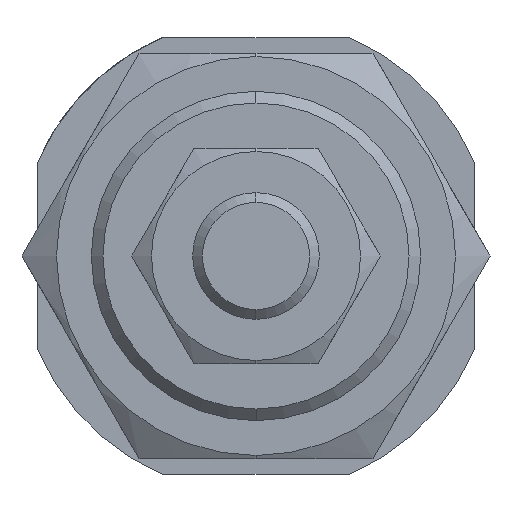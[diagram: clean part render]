
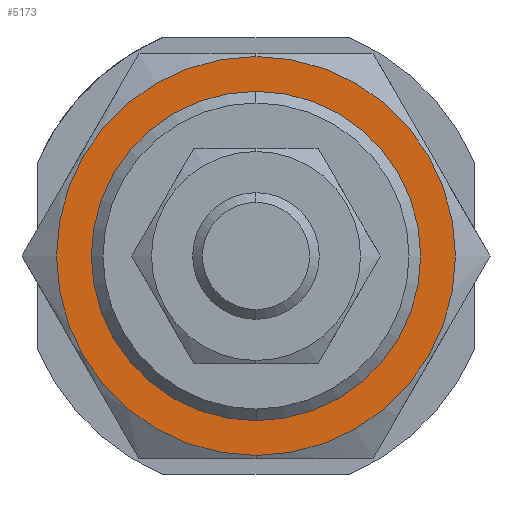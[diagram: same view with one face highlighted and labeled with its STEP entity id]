
A CAD part, left-side view. The second image highlights one B-rep face of the part: STEP entity #5173.
In plain terms, the highlighted planar face has unit normal (-1, 0, 0).
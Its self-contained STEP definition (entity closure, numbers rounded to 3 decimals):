
#16 = DIRECTION ( 'NONE',  ( 0., 1., 0. ) ) ;
#389 = AXIS2_PLACEMENT_3D ( 'NONE', #3694, #4015, #5345 ) ;
#557 = CARTESIAN_POINT ( 'NONE',  ( -11., 0., 0. ) ) ;
#696 = CIRCLE ( 'NONE', #3234, 15.75 ) ;
#717 = EDGE_CURVE ( 'NONE', #3593, #5355, #2747, .T. ) ;
#816 = DIRECTION ( 'NONE',  ( 0., 0., -1. ) ) ;
#869 = DIRECTION ( 'NONE',  ( 1., 0., 0. ) ) ;
#917 = EDGE_LOOP ( 'NONE', ( #4477, #4606 ) ) ;
#996 = ORIENTED_EDGE ( 'NONE', *, *, #717, .T. ) ;
#1283 = DIRECTION ( 'NONE',  ( 0., 0., -1. ) ) ;
#1627 = VERTEX_POINT ( 'NONE', #3377 ) ;
#1660 = FACE_BOUND ( 'NONE', #2866, .T. ) ;
#1970 = CARTESIAN_POINT ( 'NONE',  ( -11., 0., 0. ) ) ;
#2012 = AXIS2_PLACEMENT_3D ( 'NONE', #557, #3132, #2235 ) ;
#2218 = CARTESIAN_POINT ( 'NONE',  ( -11., 0., -13. ) ) ;
#2235 = DIRECTION ( 'NONE',  ( 0., 0., -1. ) ) ;
#2260 = CARTESIAN_POINT ( 'NONE',  ( -11., 0., 13. ) ) ;
#2349 = CIRCLE ( 'NONE', #2525, 13. ) ;
#2509 = FACE_OUTER_BOUND ( 'NONE', #917, .T. ) ;
#2512 = DIRECTION ( 'NONE',  ( 1., 0., 0. ) ) ;
#2525 = AXIS2_PLACEMENT_3D ( 'NONE', #1970, #3259, #816 ) ;
#2747 = CIRCLE ( 'NONE', #389, 13. ) ;
#2866 = EDGE_LOOP ( 'NONE', ( #4714, #996 ) ) ;
#3132 = DIRECTION ( 'NONE',  ( 1., 0., 0. ) ) ;
#3234 = AXIS2_PLACEMENT_3D ( 'NONE', #3369, #2512, #1283 ) ;
#3259 = DIRECTION ( 'NONE',  ( 1., 0., 0. ) ) ;
#3369 = CARTESIAN_POINT ( 'NONE',  ( -11., 0., 0. ) ) ;
#3377 = CARTESIAN_POINT ( 'NONE',  ( -11., 0., -15.75 ) ) ;
#3456 = VERTEX_POINT ( 'NONE', #5380 ) ;
#3593 = VERTEX_POINT ( 'NONE', #2218 ) ;
#3694 = CARTESIAN_POINT ( 'NONE',  ( -11., 0., 0. ) ) ;
#3774 = CARTESIAN_POINT ( 'NONE',  ( -11., 0., 0. ) ) ;
#3930 = EDGE_CURVE ( 'NONE', #5355, #3593, #2349, .T. ) ;
#4015 = DIRECTION ( 'NONE',  ( 1., 0., 0. ) ) ;
#4477 = ORIENTED_EDGE ( 'NONE', *, *, #4834, .F. ) ;
#4606 = ORIENTED_EDGE ( 'NONE', *, *, #4631, .F. ) ;
#4616 = PLANE ( 'NONE',  #5313 ) ;
#4631 = EDGE_CURVE ( 'NONE', #3456, #1627, #5236, .T. ) ;
#4714 = ORIENTED_EDGE ( 'NONE', *, *, #3930, .T. ) ;
#4834 = EDGE_CURVE ( 'NONE', #1627, #3456, #696, .T. ) ;
#5173 = ADVANCED_FACE ( 'NONE', ( #2509, #1660 ), #4616, .F. ) ;
#5236 = CIRCLE ( 'NONE', #2012, 15.75 ) ;
#5313 = AXIS2_PLACEMENT_3D ( 'NONE', #3774, #869, #16 ) ;
#5345 = DIRECTION ( 'NONE',  ( 0., 0., -1. ) ) ;
#5355 = VERTEX_POINT ( 'NONE', #2260 ) ;
#5380 = CARTESIAN_POINT ( 'NONE',  ( -11., 0., 15.75 ) ) ;
